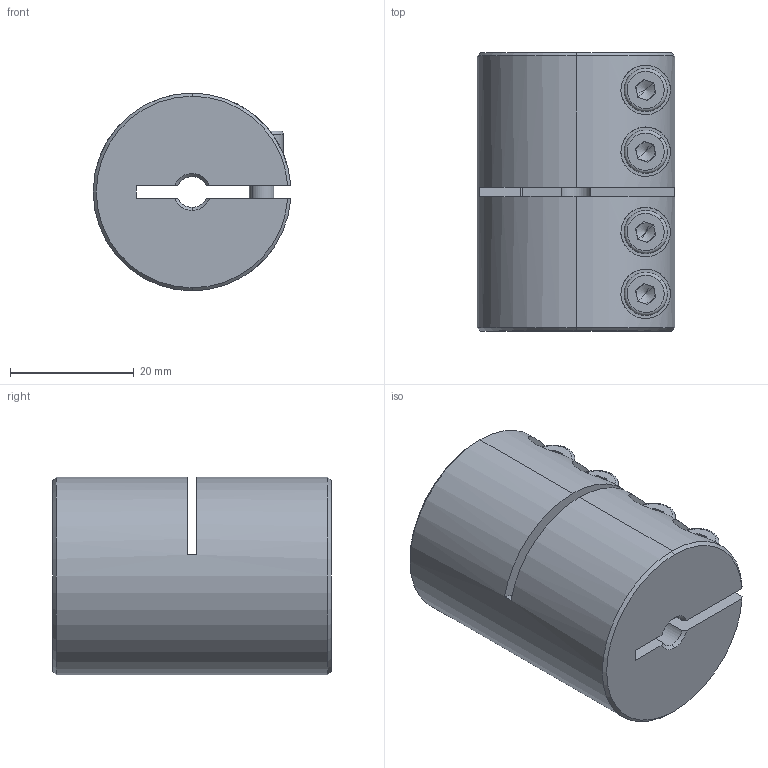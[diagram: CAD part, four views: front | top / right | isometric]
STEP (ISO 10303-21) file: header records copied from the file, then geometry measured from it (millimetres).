
FILE_DESCRIPTION (( 'STEP AP214' ), '1' );
FILE_NAME ('LL-B-D32L45-5-5½¨Ä£.STEP', '2022-07-21T06:06:07', ( '' ), ( '' ), 'SwSTEP 2.0', 'SolidWorks 2022', '' );
FILE_SCHEMA (( 'AUTOMOTIVE_DESIGN' ));
Length unit declared in the file: millimetre
Products named in the file (1): LL-B-D32L45-5-5膘耀
Bounding box: 31.97 x 45 x 32 mm (x, y, z)
Volume: 32229.2 mm3; surface area: 10666.7 mm2
Topology: 1 solids, 1 shells, 188 faces, 477 edges, 299 vertices
Faces by surface type: plane 86, cylinder 74, cone 20, torus 8
Entity records: 6186 total; most frequent: CARTESIAN_POINT 1553, DIRECTION 1006, ORIENTED_EDGE 938, EDGE_CURVE 469, AXIS2_PLACEMENT_3D 392, VERTEX_POINT 299, VECTOR 222, LINE 222
